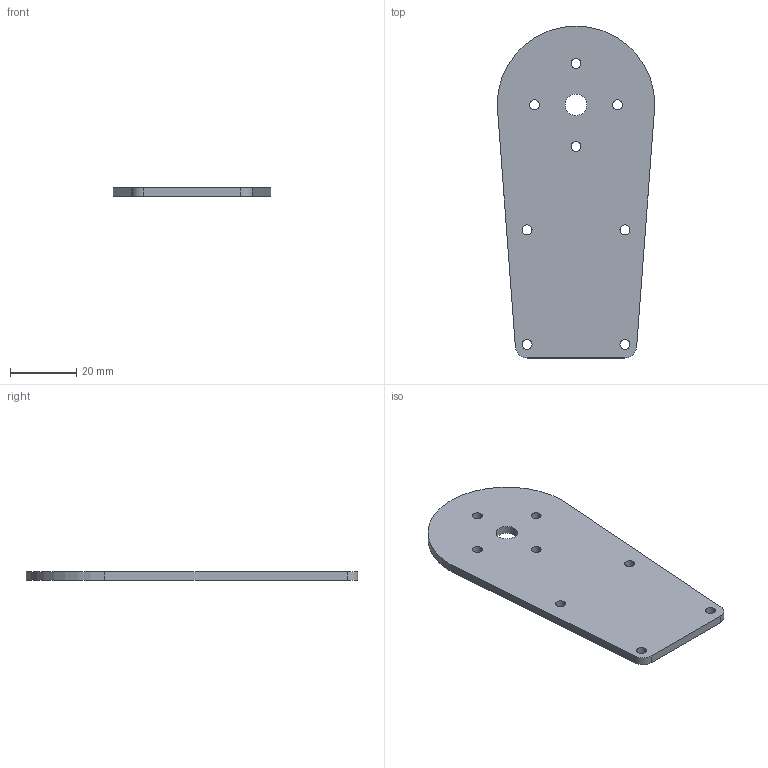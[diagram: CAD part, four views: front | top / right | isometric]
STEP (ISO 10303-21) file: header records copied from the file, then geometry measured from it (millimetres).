
FILE_DESCRIPTION (( 'STEP AP203' ), '1' );
FILE_NAME ('Gimbal Motor plate v1.STEP', '2016-10-20T20:49:47', ( 'drhyoo' ), ( '' ), 'SwSTEP 2.0', 'SolidWorks 2016', '' );
FILE_SCHEMA (( 'CONFIG_CONTROL_DESIGN' ));
Length unit declared in the file: millimetre
Products named in the file (1): Gimbal Motor plate v1
Bounding box: 47.5 x 100 x 2.5 mm (x, y, z)
Volume: 9938.3 mm3; surface area: 8842.8 mm2
Topology: 1 solids, 1 shells, 26 faces, 72 edges, 48 vertices
Faces by surface type: cylinder 21, plane 5
Entity records: 971 total; most frequent: DIRECTION 168, CARTESIAN_POINT 147, ORIENTED_EDGE 144, EDGE_CURVE 72, AXIS2_PLACEMENT_3D 69, VERTEX_POINT 48, EDGE_LOOP 44, CIRCLE 42
